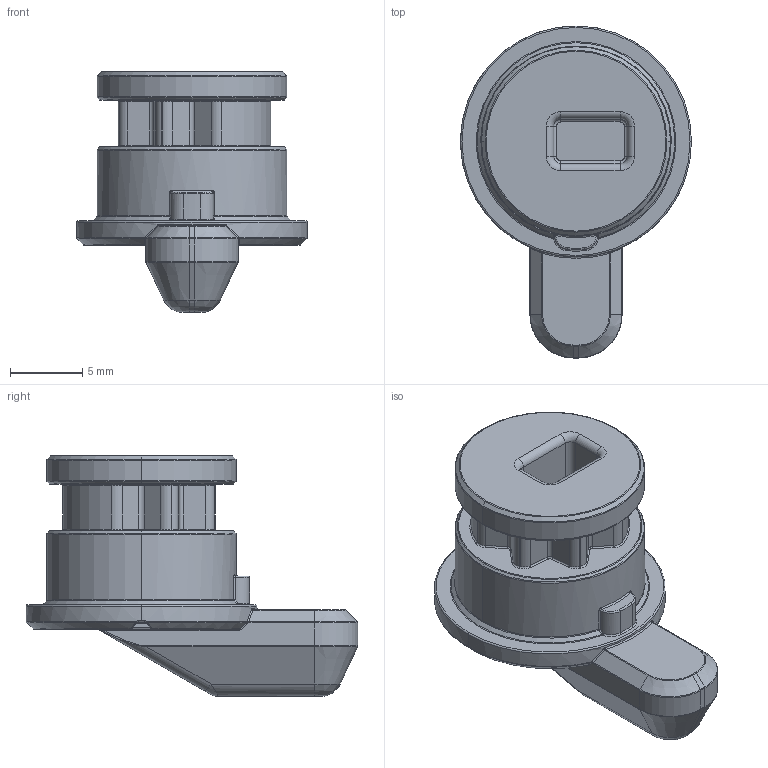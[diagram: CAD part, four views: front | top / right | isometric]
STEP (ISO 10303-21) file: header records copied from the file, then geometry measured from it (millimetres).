
FILE_DESCRIPTION((''),'2;1');
FILE_NAME('JAT-OVLADACE','2025-03-31T19:04:01',('jan'),(''),'CREO PARAMETRIC BY PTC INC, 2020342','CREO PARAMETRIC BY PTC INC, 2020342','');
FILE_SCHEMA(('CONFIG_CONTROL_DESIGN'));
Length unit declared in the file: millimetre
Products named in the file (1): JAT-OVLADACE
Bounding box: 16 x 23 x 16.7 mm (x, y, z)
Volume: 1792.9 mm3; surface area: 1307.9 mm2
Topology: 1 solids, 1 shells, 235 faces, 517 edges, 288 vertices
Faces by surface type: cylinder 75, torus 69, bspline 35, plane 33, cone 13, sphere 10
Entity records: 7957 total; most frequent: CARTESIAN_POINT 2840, DIRECTION 1152, ORIENTED_EDGE 1034, EDGE_CURVE 517, AXIS2_PLACEMENT_3D 502, CIRCLE 302, VERTEX_POINT 288, EDGE_LOOP 239
